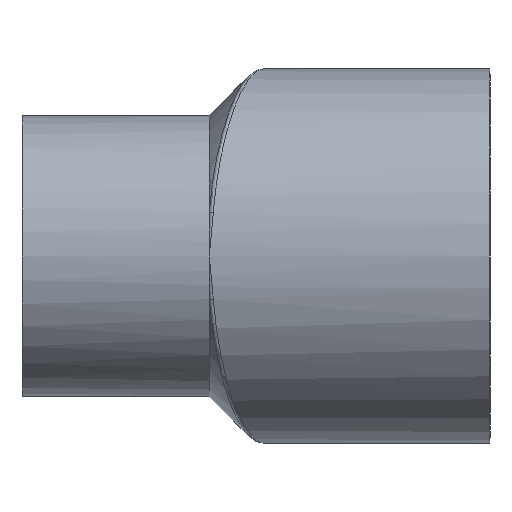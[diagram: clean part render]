
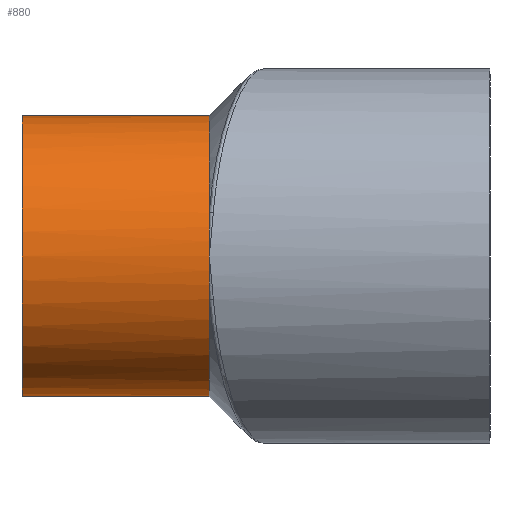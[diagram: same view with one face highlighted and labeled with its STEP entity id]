
A CAD part, front view. The second image highlights one B-rep face of the part: STEP entity #880.
In plain terms, the highlighted cylindrical face has radius 19.05 mm (diameter 38.1 mm), a partial arc.
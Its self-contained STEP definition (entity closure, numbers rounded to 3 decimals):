
#3 = CIRCLE ( 'NONE', #846, 19.05 ) ;
#11 = AXIS2_PLACEMENT_3D ( 'NONE', #647, #643, #641 ) ;
#31 = CIRCLE ( 'NONE', #375, 19.05 ) ;
#85 = VERTEX_POINT ( 'NONE', #1237 ) ;
#125 = CIRCLE ( 'NONE', #11, 19.05 ) ;
#221 = CARTESIAN_POINT ( 'NONE',  ( -63.5, -6.35, -19.05 ) ) ;
#243 = VERTEX_POINT ( 'NONE', #896 ) ;
#265 = CARTESIAN_POINT ( 'NONE',  ( -38.1, -6.35, 0. ) ) ;
#314 = CYLINDRICAL_SURFACE ( 'NONE', #369, 19.05 ) ;
#315 = CARTESIAN_POINT ( 'NONE',  ( -31.522, -6.35, 0. ) ) ;
#369 = AXIS2_PLACEMENT_3D ( 'NONE', #315, #730, #1232 ) ;
#375 = AXIS2_PLACEMENT_3D ( 'NONE', #1210, #514, #651 ) ;
#382 = DIRECTION ( 'NONE',  ( 0., 0., -1. ) ) ;
#392 = ORIENTED_EDGE ( 'NONE', *, *, #644, .F. ) ;
#397 = LINE ( 'NONE', #855, #640 ) ;
#436 = LINE ( 'NONE', #968, #1265 ) ;
#495 = VERTEX_POINT ( 'NONE', #221 ) ;
#514 = DIRECTION ( 'NONE',  ( 1., 0., 0. ) ) ;
#549 = CARTESIAN_POINT ( 'NONE',  ( -38.1, -6.35, 0. ) ) ;
#591 = CARTESIAN_POINT ( 'NONE',  ( -38.1, -24.475, -5.864 ) ) ;
#637 = VERTEX_POINT ( 'NONE', #732 ) ;
#640 = VECTOR ( 'NONE', #849, 1000. ) ;
#641 = DIRECTION ( 'NONE',  ( 0., 0., -1. ) ) ;
#643 = DIRECTION ( 'NONE',  ( 1., 0., 0. ) ) ;
#644 = EDGE_CURVE ( 'NONE', #85, #916, #990, .T. ) ;
#647 = CARTESIAN_POINT ( 'NONE',  ( -63.5, -6.35, 0. ) ) ;
#651 = DIRECTION ( 'NONE',  ( 0., 0., -1. ) ) ;
#668 = EDGE_CURVE ( 'NONE', #637, #85, #436, .T. ) ;
#671 = AXIS2_PLACEMENT_3D ( 'NONE', #265, #1009, #382 ) ;
#730 = DIRECTION ( 'NONE',  ( 1., 0., 0. ) ) ;
#732 = CARTESIAN_POINT ( 'NONE',  ( -63.5, -6.35, 19.05 ) ) ;
#739 = EDGE_LOOP ( 'NONE', ( #1168, #809, #740, #1275, #766, #899, #392 ) ) ;
#740 = ORIENTED_EDGE ( 'NONE', *, *, #830, .T. ) ;
#766 = ORIENTED_EDGE ( 'NONE', *, *, #933, .F. ) ;
#793 = CARTESIAN_POINT ( 'NONE',  ( -38.1, -6.35, -19.05 ) ) ;
#809 = ORIENTED_EDGE ( 'NONE', *, *, #813, .T. ) ;
#813 = EDGE_CURVE ( 'NONE', #637, #495, #125, .T. ) ;
#830 = EDGE_CURVE ( 'NONE', #495, #1397, #397, .T. ) ;
#843 = DIRECTION ( 'NONE',  ( 1., 0., 0. ) ) ;
#846 = AXIS2_PLACEMENT_3D ( 'NONE', #1379, #1055, #848 ) ;
#848 = DIRECTION ( 'NONE',  ( 0., 0., -1. ) ) ;
#849 = DIRECTION ( 'NONE',  ( 1., 0., 0. ) ) ;
#855 = CARTESIAN_POINT ( 'NONE',  ( -31.522, -6.35, -19.05 ) ) ;
#856 = CIRCLE ( 'NONE', #671, 19.05 ) ;
#880 = ADVANCED_FACE ( 'NONE', ( #924 ), #314, .T. ) ;
#896 = CARTESIAN_POINT ( 'NONE',  ( -38.1, -25.4, 0. ) ) ;
#899 = ORIENTED_EDGE ( 'NONE', *, *, #984, .F. ) ;
#916 = VERTEX_POINT ( 'NONE', #987 ) ;
#924 = FACE_OUTER_BOUND ( 'NONE', #739, .T. ) ;
#933 = EDGE_CURVE ( 'NONE', #243, #1158, #31, .T. ) ;
#956 = AXIS2_PLACEMENT_3D ( 'NONE', #549, #843, #1396 ) ;
#968 = CARTESIAN_POINT ( 'NONE',  ( -31.522, -6.35, 19.05 ) ) ;
#984 = EDGE_CURVE ( 'NONE', #916, #243, #3, .T. ) ;
#987 = CARTESIAN_POINT ( 'NONE',  ( -38.1, -24.475, 5.864 ) ) ;
#990 = CIRCLE ( 'NONE', #956, 19.05 ) ;
#1009 = DIRECTION ( 'NONE',  ( 1., 0., 0. ) ) ;
#1055 = DIRECTION ( 'NONE',  ( 1., 0., 0. ) ) ;
#1087 = DIRECTION ( 'NONE',  ( 1., 0., 0. ) ) ;
#1158 = VERTEX_POINT ( 'NONE', #591 ) ;
#1168 = ORIENTED_EDGE ( 'NONE', *, *, #668, .F. ) ;
#1210 = CARTESIAN_POINT ( 'NONE',  ( -38.1, -6.35, 0. ) ) ;
#1232 = DIRECTION ( 'NONE',  ( 0., 0., -1. ) ) ;
#1237 = CARTESIAN_POINT ( 'NONE',  ( -38.1, -6.35, 19.05 ) ) ;
#1265 = VECTOR ( 'NONE', #1087, 1000. ) ;
#1275 = ORIENTED_EDGE ( 'NONE', *, *, #1373, .F. ) ;
#1373 = EDGE_CURVE ( 'NONE', #1158, #1397, #856, .T. ) ;
#1379 = CARTESIAN_POINT ( 'NONE',  ( -38.1, -6.35, 0. ) ) ;
#1396 = DIRECTION ( 'NONE',  ( 0., 0., -1. ) ) ;
#1397 = VERTEX_POINT ( 'NONE', #793 ) ;
